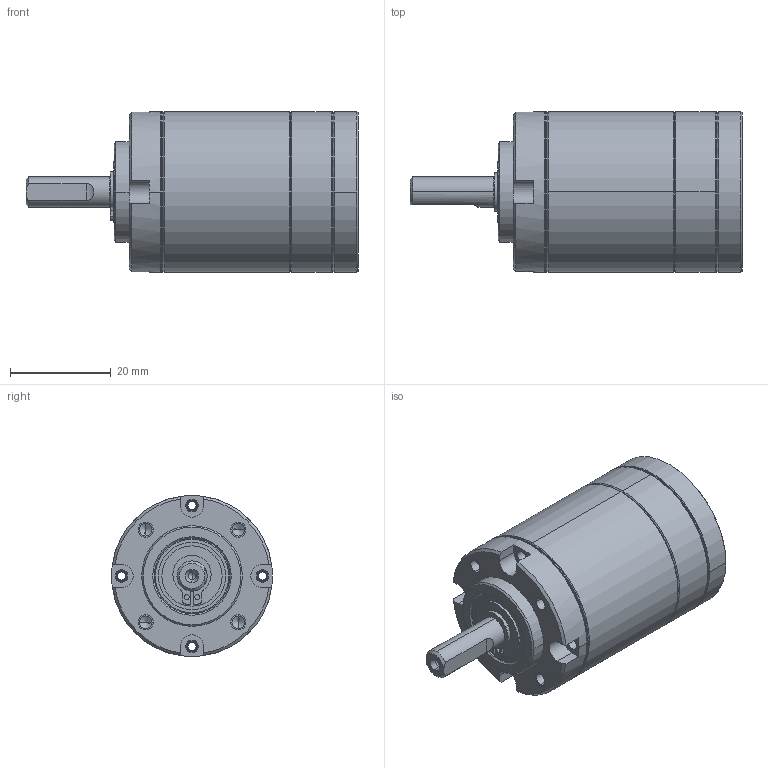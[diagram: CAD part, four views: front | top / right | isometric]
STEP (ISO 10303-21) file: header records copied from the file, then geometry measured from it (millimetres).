
FILE_DESCRIPTION((''),'2;1');
FILE_NAME('BBH_ASM','2023-03-20T',('Hsien.Hsu'),(''),'CREO PARAMETRIC BY PTC INC, 2016050','CREO PARAMETRIC BY PTC INC, 2016050','');
FILE_SCHEMA(('AUTOMOTIVE_DESIGN { 1 0 10303 214 1 1 1 1 }'));
Length unit declared in the file: millimetre
Products named in the file (14): NEWCOVER; C_LOCK; BALL_BEARING_M96860301; P32018_1107105_PW_; P32018_1109105_SW_; PG32CRING; NEWCOVER_ASM; 3201RSG0301; 3201RHG010414402B; 3201RSH_2_ASM; 3202SG02_B; 3202SC02_B_ASM; 3204LC0206100B; BBH_ASM
Assembly tree (16 placements, depth 3):
  BBH_ASM
    NEWCOVER_ASM
      NEWCOVER
      C_LOCK
      BALL_BEARING_M96860301  x2
      P32018_1107105_PW_
      P32018_1109105_SW_
      PG32CRING
    3201RSH_2_ASM
      3201RSG0301
      3201RHG010414402B
    3202SC02_B_ASM
      3202SG02_B
      P32018_1109105_SW_
    P32018_1107105_PW_
    3204LC0206100B
Bounding box: 66 x 32 x 32 mm (x, y, z)
Volume: 25517 mm3; surface area: 19275.8 mm2
Topology: 13 solids, 21 shells, 394 faces, 1071 edges, 782 vertices
Faces by surface type: cylinder 195, cone 100, plane 75, torus 24
Entity records: 15381 total; most frequent: DIRECTION 2292, CARTESIAN_POINT 2146, ORIENTED_EDGE 1616, AXIS2_PLACEMENT_3D 929, EDGE_CURVE 824, PRESENTATION_STYLE_ASSIGNMENT 713, STYLED_ITEM 713, CURVE_STYLE 699
